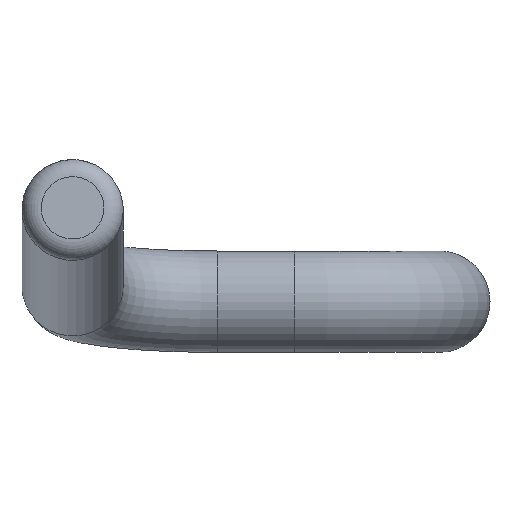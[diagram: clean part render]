
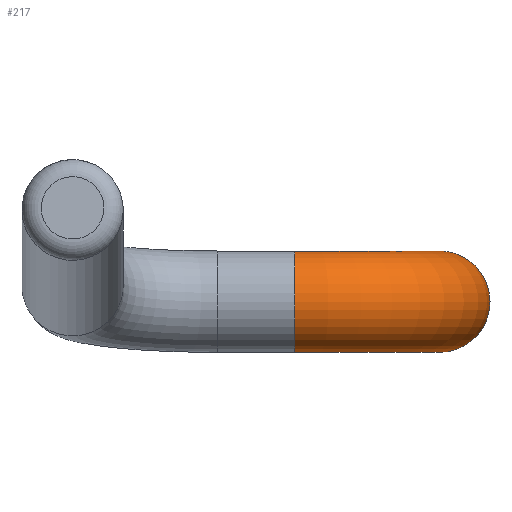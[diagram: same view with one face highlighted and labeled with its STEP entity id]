
A CAD part, front view. The second image highlights one B-rep face of the part: STEP entity #217.
In plain terms, the highlighted toroidal (fillet/blend) face has major radius 3 mm and minor radius 1.05 mm.
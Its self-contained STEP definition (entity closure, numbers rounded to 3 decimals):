
#206 = CYLINDRICAL_SURFACE('',#207,1.05);
#207 = AXIS2_PLACEMENT_3D('',#208,#209,#210);
#208 = CARTESIAN_POINT('',(-22.8,20.,-6.6));
#209 = DIRECTION('',(-1.,0.,0.));
#210 = DIRECTION('',(0.,0.,-1.));
#217 = ADVANCED_FACE('',(#218),#233,.T.);
#218 = FACE_BOUND('',#219,.T.);
#219 = EDGE_LOOP('',(#220,#250,#271,#272));
#220 = ORIENTED_EDGE('',*,*,#221,.T.);
#221 = EDGE_CURVE('',#222,#224,#226,.T.);
#222 = VERTEX_POINT('',#223);
#223 = CARTESIAN_POINT('',(-19.8,23.,-7.65));
#224 = VERTEX_POINT('',#225);
#225 = CARTESIAN_POINT('',(-22.8,20.,-7.65));
#226 = SEAM_CURVE('',#227,(#232,#244),.PCURVE_S1.);
#227 = CIRCLE('',#228,3.);
#228 = AXIS2_PLACEMENT_3D('',#229,#230,#231);
#229 = CARTESIAN_POINT('',(-22.8,23.,-7.65));
#230 = DIRECTION('',(0.,0.,-1.));
#231 = DIRECTION('',(1.,0.,0.));
#232 = PCURVE('',#233,#238);
#233 = TOROIDAL_SURFACE('',#234,3.,1.05);
#234 = AXIS2_PLACEMENT_3D('',#235,#236,#237);
#235 = CARTESIAN_POINT('',(-22.8,23.,-6.6));
#236 = DIRECTION('',(0.,-0.,-1.));
#237 = DIRECTION('',(1.,0.,0.));
#238 = DEFINITIONAL_REPRESENTATION('',(#239),#243);
#239 = LINE('',#240,#241);
#240 = CARTESIAN_POINT('',(0.,1.571));
#241 = VECTOR('',#242,1.);
#242 = DIRECTION('',(1.,0.));
#243 = ( GEOMETRIC_REPRESENTATION_CONTEXT(2) 
PARAMETRIC_REPRESENTATION_CONTEXT() REPRESENTATION_CONTEXT('2D SPACE',''
  ) );
#244 = PCURVE('',#233,#245);
#245 = DEFINITIONAL_REPRESENTATION('',(#246),#249);
#246 = B_SPLINE_CURVE_WITH_KNOTS('',1,(#247,#248),.UNSPECIFIED.,.F.,.F.,
  (2,2),(0.,1.571),.PIECEWISE_BEZIER_KNOTS.);
#247 = CARTESIAN_POINT('',(0.,7.854));
#248 = CARTESIAN_POINT('',(1.571,7.854));
#249 = ( GEOMETRIC_REPRESENTATION_CONTEXT(2) 
PARAMETRIC_REPRESENTATION_CONTEXT() REPRESENTATION_CONTEXT('2D SPACE',''
  ) );
#250 = ORIENTED_EDGE('',*,*,#251,.T.);
#251 = EDGE_CURVE('',#224,#224,#252,.T.);
#252 = SURFACE_CURVE('',#253,(#258,#265),.PCURVE_S1.);
#253 = CIRCLE('',#254,1.05);
#254 = AXIS2_PLACEMENT_3D('',#255,#256,#257);
#255 = CARTESIAN_POINT('',(-22.8,20.,-6.6));
#256 = DIRECTION('',(1.,0.,0.));
#257 = DIRECTION('',(0.,-1.,0.));
#258 = PCURVE('',#233,#259);
#259 = DEFINITIONAL_REPRESENTATION('',(#260),#264);
#260 = LINE('',#261,#262);
#261 = CARTESIAN_POINT('',(1.571,0.));
#262 = VECTOR('',#263,1.);
#263 = DIRECTION('',(0.,1.));
#264 = ( GEOMETRIC_REPRESENTATION_CONTEXT(2) 
PARAMETRIC_REPRESENTATION_CONTEXT() REPRESENTATION_CONTEXT('2D SPACE',''
  ) );
#265 = PCURVE('',#206,#266);
#266 = DEFINITIONAL_REPRESENTATION('',(#267),#270);
#267 = B_SPLINE_CURVE_WITH_KNOTS('',1,(#268,#269),.UNSPECIFIED.,.F.,.F.,
  (2,2),(1.571,7.854),.PIECEWISE_BEZIER_KNOTS.);
#268 = CARTESIAN_POINT('',(6.283,0.));
#269 = CARTESIAN_POINT('',(0.,0.));
#270 = ( GEOMETRIC_REPRESENTATION_CONTEXT(2) 
PARAMETRIC_REPRESENTATION_CONTEXT() REPRESENTATION_CONTEXT('2D SPACE',''
  ) );
#271 = ORIENTED_EDGE('',*,*,#221,.F.);
#272 = ORIENTED_EDGE('',*,*,#273,.T.);
#273 = EDGE_CURVE('',#222,#222,#274,.T.);
#274 = SURFACE_CURVE('',#275,(#280,#286),.PCURVE_S1.);
#275 = CIRCLE('',#276,1.05);
#276 = AXIS2_PLACEMENT_3D('',#277,#278,#279);
#277 = CARTESIAN_POINT('',(-19.8,23.,-6.6));
#278 = DIRECTION('',(0.,-1.,0.));
#279 = DIRECTION('',(0.,0.,-1.));
#280 = PCURVE('',#233,#281);
#281 = DEFINITIONAL_REPRESENTATION('',(#282),#285);
#282 = B_SPLINE_CURVE_WITH_KNOTS('',1,(#283,#284),.UNSPECIFIED.,.F.,.F.,
  (2,2),(0.,6.283),.PIECEWISE_BEZIER_KNOTS.);
#283 = CARTESIAN_POINT('',(0.,7.854));
#284 = CARTESIAN_POINT('',(0.,1.571));
#285 = ( GEOMETRIC_REPRESENTATION_CONTEXT(2) 
PARAMETRIC_REPRESENTATION_CONTEXT() REPRESENTATION_CONTEXT('2D SPACE',''
  ) );
#286 = PCURVE('',#287,#292);
#287 = CYLINDRICAL_SURFACE('',#288,1.05);
#288 = AXIS2_PLACEMENT_3D('',#289,#290,#291);
#289 = CARTESIAN_POINT('',(-19.8,42.,-6.6));
#290 = DIRECTION('',(0.,-1.,0.));
#291 = DIRECTION('',(0.,0.,-1.));
#292 = DEFINITIONAL_REPRESENTATION('',(#293),#297);
#293 = LINE('',#294,#295);
#294 = CARTESIAN_POINT('',(0.,19.));
#295 = VECTOR('',#296,1.);
#296 = DIRECTION('',(1.,0.));
#297 = ( GEOMETRIC_REPRESENTATION_CONTEXT(2) 
PARAMETRIC_REPRESENTATION_CONTEXT() REPRESENTATION_CONTEXT('2D SPACE',''
  ) );
